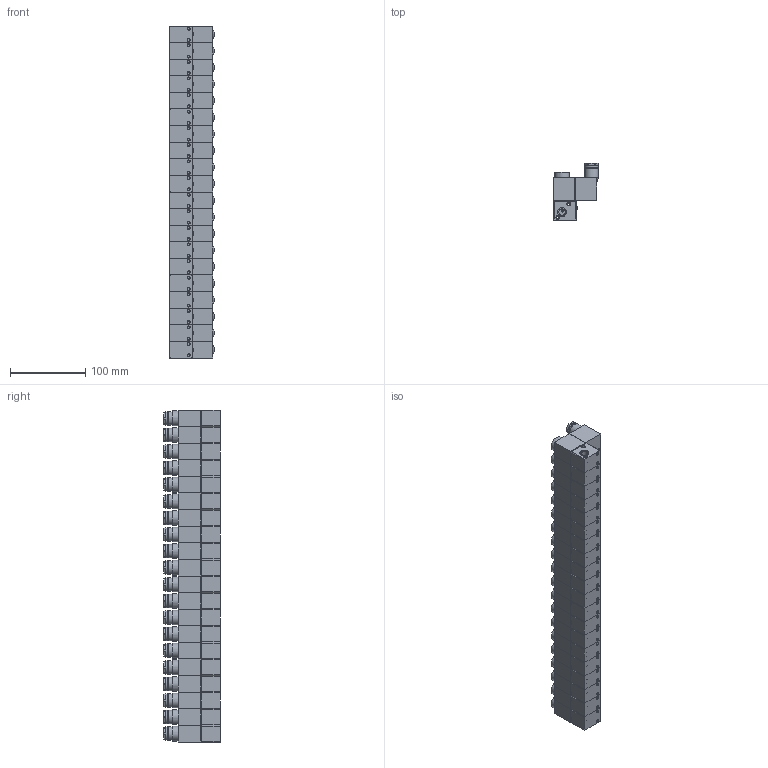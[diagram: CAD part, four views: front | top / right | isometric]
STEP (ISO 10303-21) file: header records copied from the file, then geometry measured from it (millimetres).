
FILE_DESCRIPTION(/* description */ ('STEP AP214'),/* implementation_level */ '2;1');
FILE_NAME(/* name */ '86-MS-3V-20-xxx.stp',/* time_stamp */ '2026-01-15T09:35:22+01:00',/* author */ ('Tschernatsch'),/* organization */ ('CADENAS'),/* preprocessor_version */ 'ST-DEVELOPER v20',/* originating_system */ 'Autodesk Inventor 2024',/* authorisation */ ' ');
FILE_SCHEMA (('AUTOMOTIVE_DESIGN { 1 0 10303 214 3 1 1 }'));
Length unit declared in the file: millimetre
Products named in the file (3): 3v1-06-LD-DC24V-20F; 3v1-06-LD-DC24V-20F3; 3v1-06-LD-DC24V-20F2
Assembly tree (40 placements, depth 2):
  3v1-06-LD-DC24V-20F
    3v1-06-LD-DC24V-20F3  x20
    3v1-06-LD-DC24V-20F2  x20
Bounding box: 59 x 75 x 440 mm (x, y, z)
Volume: 1163961.1 mm3; surface area: 297214.9 mm2
Topology: 40 solids, 40 shells, 1800 faces, 3900 edges, 2580 vertices
Faces by surface type: plane 1220, cylinder 500, cone 80
Full cylindrical faces by diameter (mm): 3.242 x40, 3.5 x60, 4 x20, 4.3 x20, 5.2 x80, 8.566 x60, 11 x20, 12 x40, 14.4 x20, 18 x40, 19.6 x20
Entity records: 2905 total; most frequent: DIRECTION 533, CARTESIAN_POINT 459, ORIENTED_EDGE 390, AXIS2_PLACEMENT_3D 206, EDGE_CURVE 195, VERTEX_POINT 129, LINE 121, VECTOR 121
